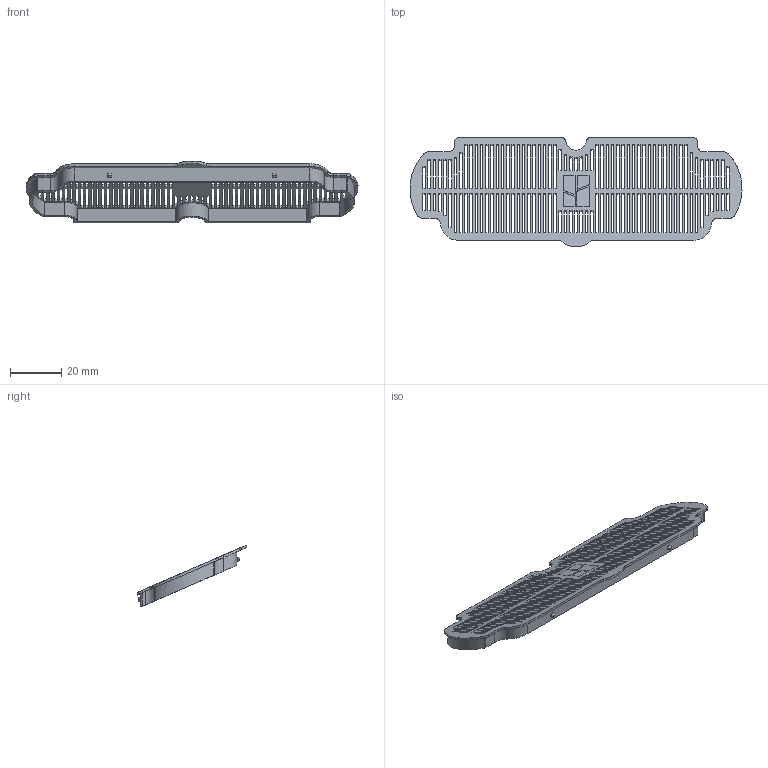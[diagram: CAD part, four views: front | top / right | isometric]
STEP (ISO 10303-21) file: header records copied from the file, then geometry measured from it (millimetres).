
FILE_DESCRIPTION (( 'STEP AP214' ), '1' );
FILE_NAME ('Bambu Lab AMS Rear Dessicant Tray Lid v3.STEP', '2023-03-03T10:28:35', ( '' ), ( '' ), 'SwSTEP 2.0', 'SolidWorks 2022', '' );
FILE_SCHEMA (( 'AUTOMOTIVE_DESIGN' ));
Length unit declared in the file: millimetre
Products named in the file (1): Bambu Lab AMS Rear Dessicant Tray Lid v3
Bounding box: 128.97 x 42.52 x 24.03 mm (x, y, z)
Volume: 5135.3 mm3; surface area: 13830 mm2
Topology: 1 solids, 1 shells, 650 faces, 1973 edges, 1276 vertices
Faces by surface type: plane 579, bspline 39, cylinder 28, torus 4
Entity records: 23384 total; most frequent: CARTESIAN_POINT 5802, ORIENTED_EDGE 3946, DIRECTION 3055, EDGE_CURVE 1973, LINE 1789, VECTOR 1789, VERTEX_POINT 1276, EDGE_LOOP 837
